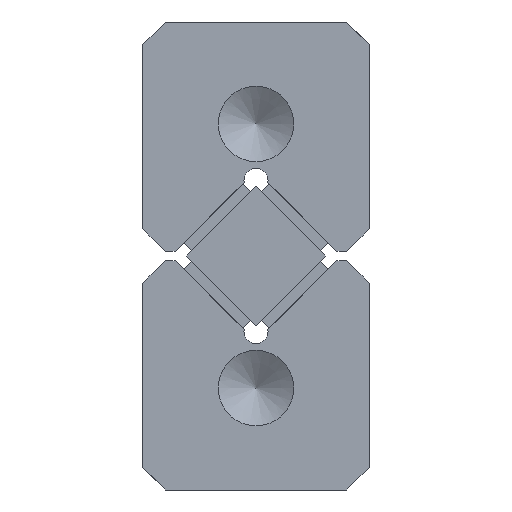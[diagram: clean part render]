
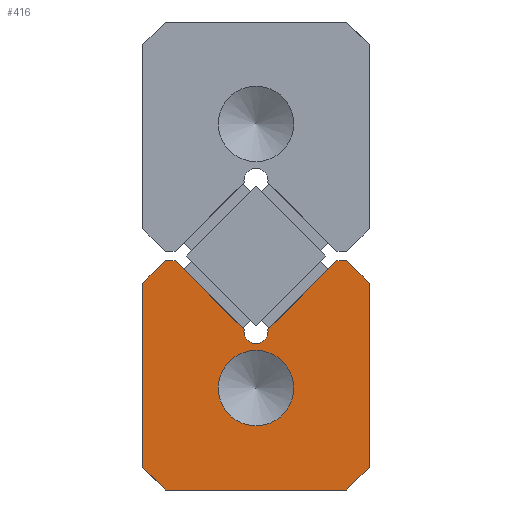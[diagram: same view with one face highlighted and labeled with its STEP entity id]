
A CAD part, left-side view. The second image highlights one B-rep face of the part: STEP entity #416.
In plain terms, the highlighted planar face has unit normal (-1, 0, 0).
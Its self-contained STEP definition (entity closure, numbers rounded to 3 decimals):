
#184=CARTESIAN_POINT('',(0.0,2.5,0.75));
#185=VERTEX_POINT('',#184);
#186=CARTESIAN_POINT('',(0.0,0.0,0.75));
#187=DIRECTION('',(1.0,0.0,0.0));
#188=DIRECTION('',(0.0,1.0,0.0));
#189=AXIS2_PLACEMENT_3D('',#186,#187,#188);
#190=CIRCLE('',#189,2.5);
#191=EDGE_CURVE('',#185,#185,#190,.T.);
#214=CARTESIAN_POINT('',(0.0,-6.,9.2));
#215=VERTEX_POINT('',#214);
#222=CARTESIAN_POINT('',(0.0,-7.5,7.7));
#223=VERTEX_POINT('',#222);
#224=CARTESIAN_POINT('',(0.0,-6.,9.2));
#225=DIRECTION('',(0.0,-0.707,-0.707));
#226=VECTOR('',#225,2.121);
#227=LINE('',#224,#226);
#228=EDGE_CURVE('',#215,#223,#227,.T.);
#245=CARTESIAN_POINT('',(0.0,-7.5,-4.5));
#246=VERTEX_POINT('',#245);
#247=CARTESIAN_POINT('',(0.0,-7.5,7.7));
#248=DIRECTION('',(0.0,0.0,-1.0));
#249=VECTOR('',#248,12.2);
#250=LINE('',#247,#249);
#251=EDGE_CURVE('',#223,#246,#250,.T.);
#325=CARTESIAN_POINT('',(0.0,0.,1.512));
#326=DIRECTION('',(1.0,0.0,0.0));
#327=DIRECTION('',(0.0,0.0,-1.0));
#328=AXIS2_PLACEMENT_3D('',#325,#326,#327);
#329=PLANE('',#328);
#330=ORIENTED_EDGE('',*,*,#228,.F.);
#331=CARTESIAN_POINT('',(0.0,-5.357,9.2));
#332=VERTEX_POINT('',#331);
#333=CARTESIAN_POINT('',(0.0,-5.357,9.2));
#334=DIRECTION('',(0.0,-1.0,0.0));
#335=VECTOR('',#334,0.643);
#336=LINE('',#333,#335);
#337=EDGE_CURVE('',#332,#215,#336,.T.);
#338=ORIENTED_EDGE('',*,*,#337,.F.);
#339=CARTESIAN_POINT('',(0.0,-0.789,4.632));
#340=VERTEX_POINT('',#339);
#341=CARTESIAN_POINT('',(0.0,-0.789,4.632));
#342=DIRECTION('',(0.0,-0.707,0.707));
#343=VECTOR('',#342,6.46);
#344=LINE('',#341,#343);
#345=EDGE_CURVE('',#340,#332,#344,.T.);
#346=ORIENTED_EDGE('',*,*,#345,.F.);
#347=CARTESIAN_POINT('',(0.0,0.789,4.632));
#348=VERTEX_POINT('',#347);
#349=CARTESIAN_POINT('',(0.0,0.0,4.5));
#350=DIRECTION('',(-1.,0.0,0.0));
#351=DIRECTION('',(0.0,0.986,-0.165));
#352=AXIS2_PLACEMENT_3D('',#349,#350,#351);
#353=CIRCLE('',#352,0.8);
#354=EDGE_CURVE('',#348,#340,#353,.T.);
#355=ORIENTED_EDGE('',*,*,#354,.F.);
#356=CARTESIAN_POINT('',(0.0,5.357,9.2));
#357=VERTEX_POINT('',#356);
#358=CARTESIAN_POINT('',(0.0,5.357,9.2));
#359=DIRECTION('',(0.0,-0.707,-0.707));
#360=VECTOR('',#359,6.46);
#361=LINE('',#358,#360);
#362=EDGE_CURVE('',#357,#348,#361,.T.);
#363=ORIENTED_EDGE('',*,*,#362,.F.);
#364=CARTESIAN_POINT('',(0.0,6.,9.2));
#365=VERTEX_POINT('',#364);
#366=CARTESIAN_POINT('',(0.0,6.,9.2));
#367=DIRECTION('',(0.0,-1.0,0.0));
#368=VECTOR('',#367,0.643);
#369=LINE('',#366,#368);
#370=EDGE_CURVE('',#365,#357,#369,.T.);
#371=ORIENTED_EDGE('',*,*,#370,.F.);
#372=CARTESIAN_POINT('',(0.0,7.5,7.7));
#373=VERTEX_POINT('',#372);
#374=CARTESIAN_POINT('',(0.0,7.5,7.7));
#375=DIRECTION('',(0.0,-0.707,0.707));
#376=VECTOR('',#375,2.121);
#377=LINE('',#374,#376);
#378=EDGE_CURVE('',#373,#365,#377,.T.);
#379=ORIENTED_EDGE('',*,*,#378,.F.);
#380=CARTESIAN_POINT('',(0.0,7.5,-4.5));
#381=VERTEX_POINT('',#380);
#382=CARTESIAN_POINT('',(0.0,7.5,-4.5));
#383=DIRECTION('',(0.0,0.0,1.0));
#384=VECTOR('',#383,12.2);
#385=LINE('',#382,#384);
#386=EDGE_CURVE('',#381,#373,#385,.T.);
#387=ORIENTED_EDGE('',*,*,#386,.F.);
#388=CARTESIAN_POINT('',(0.0,6.,-6.));
#389=VERTEX_POINT('',#388);
#390=CARTESIAN_POINT('',(0.0,6.,-6.));
#391=DIRECTION('',(0.0,0.707,0.707));
#392=VECTOR('',#391,2.121);
#393=LINE('',#390,#392);
#394=EDGE_CURVE('',#389,#381,#393,.T.);
#395=ORIENTED_EDGE('',*,*,#394,.F.);
#396=CARTESIAN_POINT('',(0.0,-6.,-6.));
#397=VERTEX_POINT('',#396);
#398=CARTESIAN_POINT('',(0.0,-6.,-6.));
#399=DIRECTION('',(0.0,1.0,0.0));
#400=VECTOR('',#399,12.);
#401=LINE('',#398,#400);
#402=EDGE_CURVE('',#397,#389,#401,.T.);
#403=ORIENTED_EDGE('',*,*,#402,.F.);
#404=CARTESIAN_POINT('',(0.0,-7.5,-4.5));
#405=DIRECTION('',(0.0,0.707,-0.707));
#406=VECTOR('',#405,2.121);
#407=LINE('',#404,#406);
#408=EDGE_CURVE('',#246,#397,#407,.T.);
#409=ORIENTED_EDGE('',*,*,#408,.F.);
#410=ORIENTED_EDGE('',*,*,#251,.F.);
#411=EDGE_LOOP('',(#330,#338,#346,#355,#363,#371,#379,#387,#395,#403,#409,#410));
#412=FACE_OUTER_BOUND('',#411,.T.);
#413=ORIENTED_EDGE('',*,*,#191,.T.);
#414=EDGE_LOOP('',(#413));
#415=FACE_BOUND('',#414,.T.);
#416=ADVANCED_FACE('',(#412,#415),#329,.F.);
